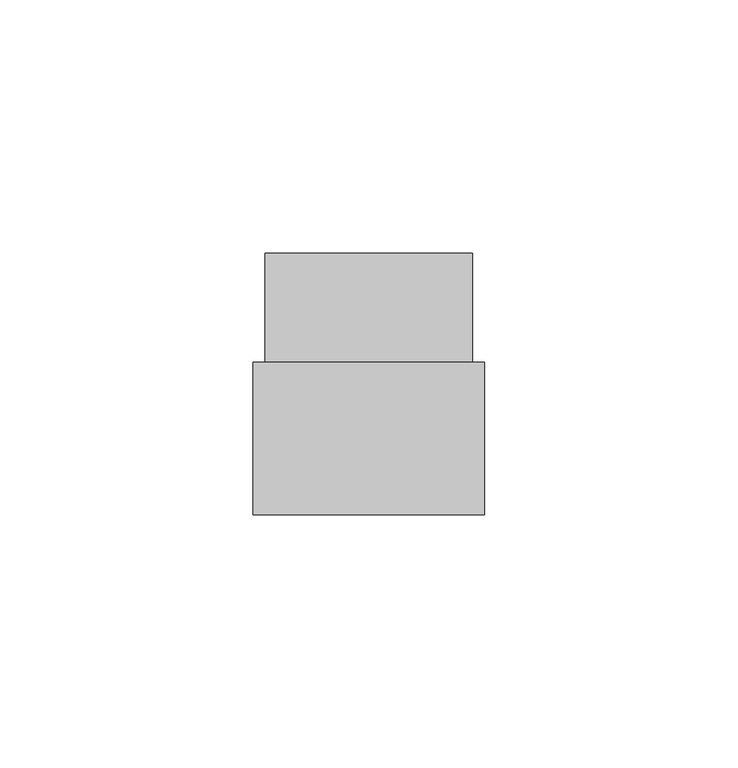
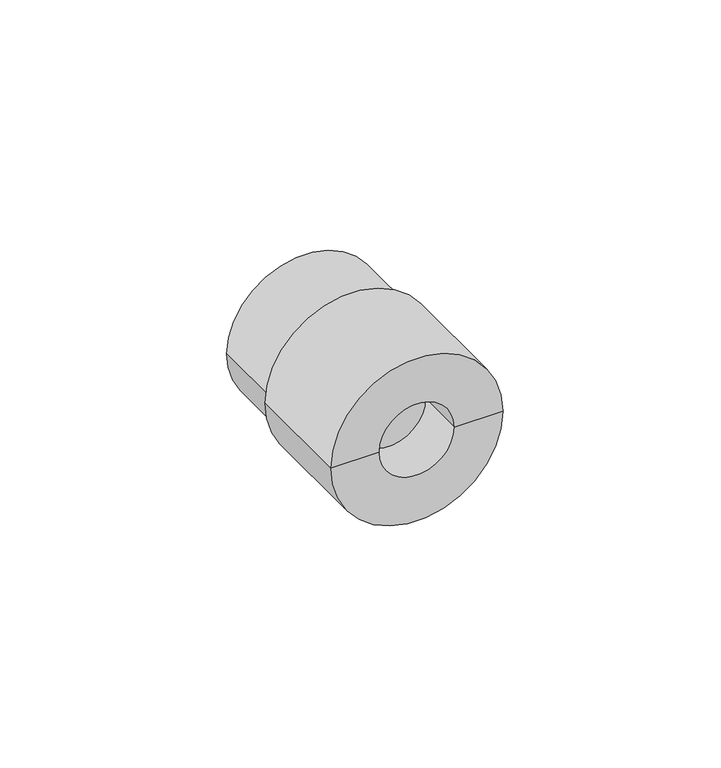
"""IFC4 building model written with IfcOpenShell, lengths in millimetres: pipe fitting geometry, NIRON RED termofusion roscado enlace rosca hembra : Estándar."""

import ifcopenshell
import ifcopenshell.guid

model = None  # the IFC model being written
_history = None  # IfcOwnerHistory: only IFC2X3 demands one
_inside = {}  # id of a spatial element -> (the spatial element, [elements in it])
_under = {}  # id of a project, library or spatial element -> (it, [spatial elements below it])
_declared = {}  # id of a project -> (the project, [libraries it declares])
_typed = {}  # id of a type object -> (the type object, [elements of that type])
_made_of = {}  # id of a material, layer set ... -> (it, [elements and type objects made of it])


def new_model(schema):
    """Start an empty IFC model of exactly this schema.

    Asked for "IFC4X3", IfcOpenShell would pick the latest addendum, in which some entities
    have other attributes; the version numbers below select the first issue.
    IFC2X3 requires an IfcOwnerHistory on every rooted entity: one is made here for all.
    """
    global model, _history
    if schema == "IFC4X3":
        model = ifcopenshell.file(schema_version=(4, 3, 0, 0))
    else:
        model = ifcopenshell.file(schema=schema)
    _inside.clear()
    _under.clear()
    _declared.clear()
    _typed.clear()
    _made_of.clear()
    _history = None
    if model.schema == "IFC2X3":
        org = make("IfcOrganization", Name="unknown")
        user = make(
            "IfcPersonAndOrganization",
            ThePerson=make("IfcPerson", FamilyName="unknown"),
            TheOrganization=org,
        )
        app = make(
            "IfcApplication",
            ApplicationDeveloper=org,
            Version="unknown",
            ApplicationFullName="unknown",
            ApplicationIdentifier="unknown",
        )
        _history = make(
            "IfcOwnerHistory",
            OwningUser=user,
            OwningApplication=app,
            ChangeAction="ADDED",
            CreationDate=0,
        )
    return model


def make(cls, **values):
    """One entity of the class cls with the attributes given. An attribute that is None is left unset."""
    return model.create_entity(
        cls, **{name: value for name, value in values.items() if value is not None}
    )


def rooted(cls, **values):
    """An entity with a GlobalId (a new one), such as an element, a storey or a relation."""
    return make(cls, GlobalId=ifcopenshell.guid.new(), OwnerHistory=_history, **values)


def si_unit(unit_type, name, prefix=None):
    """IfcSIUnit, for example si_unit("LENGTHUNIT", "METRE", prefix="MILLI")."""
    return make("IfcSIUnit", UnitType=unit_type, Prefix=prefix, Name=name)


def assignment(units):
    """IfcUnitAssignment: the units of a project."""
    return None if units is None else make("IfcUnitAssignment", Units=units)


def point(xyz):
    """IfcCartesianPoint."""
    return None if xyz is None else make("IfcCartesianPoint", Coordinates=xyz)


def direction(xyz):
    """IfcDirection."""
    return None if xyz is None else make("IfcDirection", DirectionRatios=xyz)


def frame(location, z_axis=None, x_axis=None):
    """IfcAxis2Placement3D, a coordinate frame: its origin and axes. An axis left out is left unset."""
    return make(
        "IfcAxis2Placement3D",
        Location=point(location),
        Axis=direction(z_axis),
        RefDirection=direction(x_axis),
    )


def origin():
    """The frame at (0, 0, 0) with its axes left unset."""
    return frame((0.0, 0.0, 0.0))


def place(relative_to, where):
    """IfcLocalPlacement: puts the frame where relative to a parent placement (None: the world)."""
    return make(
        "IfcLocalPlacement", PlacementRelTo=relative_to, RelativePlacement=where
    )


def context(
    kind, dimensions, precision=None, world=None, true_north=None, identifier=None
):
    """IfcGeometricRepresentationContext, for example the 3D "Model" context."""
    return make(
        "IfcGeometricRepresentationContext",
        ContextIdentifier=identifier,
        ContextType=kind,
        CoordinateSpaceDimension=dimensions,
        Precision=precision,
        WorldCoordinateSystem=world,
        TrueNorth=true_north,
    )


def project(units=None, contexts=None):
    """IfcProject with its units and contexts."""
    return rooted(
        "IfcProject",
        Name="project",
        RepresentationContexts=contexts,
        UnitsInContext=assignment(units),
    )


def spatial(cls, under=None, at=None, **own):
    """A site, building, storey or space (cls), placed at a placement, below another one or the project."""
    s = rooted(cls, ObjectPlacement=at, **own)
    if under is not None:
        _under.setdefault(under.id(), (under, []))[1].append(s)
    return s


def polyline(points):
    """IfcPolyline through the points."""
    return make("IfcPolyline", Points=[point(p) for p in points])


def circle_curve(where, radius):
    """IfcCircle in the frame where."""
    return make("IfcCircle", Position=where, Radius=radius)


def shape(context_of_items, identifier, shape_type, items):
    """IfcShapeRepresentation: the items that make up one representation, for example the "Body"."""
    return make(
        "IfcShapeRepresentation",
        ContextOfItems=context_of_items,
        RepresentationIdentifier=identifier,
        RepresentationType=shape_type,
        Items=items,
    )


def source(mapping_origin, context_of_items, identifier, shape_type, items):
    """IfcRepresentationMap: a shape defined once, which mapped items show again and again."""
    return make(
        "IfcRepresentationMap",
        MappingOrigin=mapping_origin,
        MappedRepresentation=shape(context_of_items, identifier, shape_type, items),
    )


def transform(
    local_origin,
    x_axis=None,
    y_axis=None,
    z_axis=None,
    scale=None,
    scale2=None,
    scale3=None,
    uniform=True,
):
    """IfcCartesianTransformationOperator3D, or its non-uniform kind. x_axis, y_axis, z_axis: its Axis1, 2, 3."""
    if uniform:
        return make(
            "IfcCartesianTransformationOperator3D",
            Axis1=direction(x_axis),
            Axis2=direction(y_axis),
            LocalOrigin=point(local_origin),
            Scale=scale,
            Axis3=direction(z_axis),
        )
    return make(
        "IfcCartesianTransformationOperator3DnonUniform",
        Axis1=direction(x_axis),
        Axis2=direction(y_axis),
        LocalOrigin=point(local_origin),
        Scale=scale,
        Axis3=direction(z_axis),
        Scale2=scale2,
        Scale3=scale3,
    )


def mapped(mapping_source, mapping_target):
    """IfcMappedItem: shows the shape of a source again, moved by a transform."""
    return make(
        "IfcMappedItem", MappingSource=mapping_source, MappingTarget=mapping_target
    )


def made_of(thing, what):
    """Note that an element or type object is made of a material, layer set ...; save() writes the relation."""
    if what is not None:
        _made_of.setdefault(what.id(), (what, []))[1].append(thing)
    return thing


def element(
    cls,
    number,
    at=None,
    inside=None,
    cuts=None,
    type_object=None,
    material=None,
    context=None,
    identifier="Body",
    shape_type=None,
    held_by="IfcProductDefinitionShape",
    body=None,
    shapes=None,
    **own,
):
    """One element of the class cls, such as IfcWall. Its Tag is "e" and its number.

    at: its placement. inside: the storey or other place that contains it. cuts: it is an
    opening in that element (IfcRelVoidsElement). A single representation is given by context,
    identifier, shape_type and body (its items); several are given by shapes. held_by: the class
    of the entity that holds the representations. save() writes the other relations.
    """
    e = rooted(cls, Tag="e%d" % number, ObjectPlacement=at, **own)
    if body is not None:
        shapes = [shape(context, identifier, shape_type, body)]
    if shapes is not None:
        e.Representation = make(held_by, Representations=shapes)
    if inside is not None:
        _inside.setdefault(inside.id(), (inside, []))[1].append(e)
    if cuts is not None:
        rooted(
            "IfcRelVoidsElement", RelatingBuildingElement=cuts, RelatedOpeningElement=e
        )
    if type_object is not None:
        _typed.setdefault(type_object.id(), (type_object, []))[1].append(e)
    return made_of(e, material)


def aggregate(whole, parts):
    """IfcRelAggregates: a whole, such as a stair, and the parts it consists of."""
    return rooted("IfcRelAggregates", RelatingObject=whole, RelatedObjects=parts)


def save(model, path):
    """Write the relations noted so far, then the file.

    IfcRelAggregates (storeys below a building ...), IfcRelContainedInSpatialStructure (elements
    in a storey), IfcRelDefinesByType, IfcRelAssociatesMaterial and IfcRelDeclares: one each for
    every whole, place, type object, material and project.
    """
    for whole, parts in _under.values():
        aggregate(whole, parts)
    for where, things in _inside.values():
        rooted(
            "IfcRelContainedInSpatialStructure",
            RelatedElements=things,
            RelatingStructure=where,
        )
    for kind, things in _typed.values():
        rooted("IfcRelDefinesByType", RelatedObjects=things, RelatingType=kind)
    for what, things in _made_of.values():
        rooted("IfcRelAssociatesMaterial", RelatedObjects=things, RelatingMaterial=what)
    for by, libraries in _declared.values():
        rooted("IfcRelDeclares", RelatingContext=by, RelatedDefinitions=libraries)
    model.write(path)


def plane_surface(at):
    """IfcPlane: the flat surface through the origin of the frame at, square to its z axis."""
    return make("IfcPlane", Position=at)


def cylinder_surface(at, radius):
    """IfcCylindricalSurface: all points at the distance radius from the z axis of the frame at."""
    return make("IfcCylindricalSurface", Position=at, Radius=radius)


def revolved_surface(curve, axis_point, axis_direction):
    """IfcSurfaceOfRevolution: the curve turned about the line through axis_point along axis_direction."""
    return make(
        "IfcSurfaceOfRevolution",
        SweptCurve=make("IfcArbitraryOpenProfileDef", ProfileType="CURVE", Curve=curve),
        AxisPosition=make("IfcAxis1Placement", Location=point(axis_point), Axis=direction(axis_direction)),
    )


def advanced_brep(points, edges, surfaces, faces):
    """IfcAdvancedBrep: a solid bounded by faces that lie on surfaces and meet in shared edges.

    An edge is (start, end): straight between two places in points (the first is 0);
    or (start, end, curve); or (start, end, curve, False) where it runs against its curve.
    A face is (place in surfaces, loops), or (place, loops, False) where it looks against
    its surface's normal. A loop lists edges by number (the first is 1), with a minus sign
    where the edge is run from its end to its start. The first loop is the outer one.
    """
    corners = [point(p) for p in points]
    vertices = [make("IfcVertexPoint", VertexGeometry=c) for c in corners]
    made = []
    for start, end, *more in edges:
        made.append(
            make(
                "IfcEdgeCurve",
                EdgeStart=vertices[start],
                EdgeEnd=vertices[end],
                EdgeGeometry=more[0] if more else make("IfcPolyline", Points=[corners[start], corners[end]]),
                SameSense=more[1] if len(more) > 1 else True,
            )
        )
    hull = []
    for where, loops, *sense in faces:
        bounds = []
        for j, loop in enumerate(loops):
            ring = [make("IfcOrientedEdge", EdgeElement=made[abs(k) - 1], Orientation=k > 0) for k in loop]
            bounds.append(
                make(
                    "IfcFaceOuterBound" if j == 0 else "IfcFaceBound",
                    Bound=make("IfcEdgeLoop", EdgeList=ring),
                    Orientation=True,
                )
            )
        hull.append(make("IfcAdvancedFace", Bounds=bounds, FaceSurface=surfaces[where], SameSense=sense[0] if sense else True))
    return make("IfcAdvancedBrep", Outer=make("IfcClosedShell", CfsFaces=hull))


def pipe_fitting_5467b1b9(model_context):
    return source(origin(), model_context, "Body", "AdvancedBrep", [
        advanced_brep(
        [(20.5, 51.5, 0.0), (-20.5, 51.5, 0.0), (0.0, 51.5, 0.0), (22.8, 0.0, 0.0), (-22.8, 0.0, 0.0), (-22.8, 30.0, 0.0), (22.8, 30.0, 0.0), (10.0, 0.0, 0.0), (-10.0, 0.0, 0.0), (20.5, 30.0, 0.0), (-20.5, 30.0, 0.0), (-10.0, 13.2, 0.0), (10.0, 13.2, 0.0)],
        [
            (0, 1, circle_curve(frame((0.0, 51.5, 0.0), z_axis=(0.0, 1.0, 0.0), x_axis=(-1.0, 0.0, 0.0)), 20.5)),
            (1, 2),
            (2, 0),
            (1, 0, circle_curve(frame((0.0, 51.5, 0.0), z_axis=(0.0, 1.0, 0.0), x_axis=(-1.0, 0.0, 0.0)), 20.5)),
            (3, 4, circle_curve(frame((0.0, 0.0, 0.0), z_axis=(0.0, 1.0, 0.0), x_axis=(-1.0, 0.0, 0.0)), 22.8)),
            (4, 5),
            (5, 6, circle_curve(frame((0.0, 30.0, 0.0), z_axis=(0.0, -1.0, 0.0), x_axis=(-1.0, 0.0, 0.0)), 22.8)),
            (6, 3),
            (4, 3, circle_curve(frame((0.0, 0.0, 0.0), z_axis=(0.0, 1.0, 0.0), x_axis=(-1.0, 0.0, 0.0)), 22.8)),
            (6, 5, circle_curve(frame((0.0, 30.0, 0.0), z_axis=(0.0, -1.0, 0.0), x_axis=(-1.0, 0.0, 0.0)), 22.8)),
            (3, 7),
            (7, 8, circle_curve(frame((0.0, 0.0, 0.0), z_axis=(0.0, 1.0, 0.0), x_axis=(1.0, 0.0, 0.0)), 10.0)),
            (8, 4),
            (8, 7, circle_curve(frame((0.0, 0.0, 0.0), z_axis=(0.0, 1.0, 0.0), x_axis=(1.0, 0.0, 0.0)), 10.0)),
            (0, 9),
            (9, 10, circle_curve(frame((0.0, 30.0, 0.0), z_axis=(0.0, 1.0, 0.0), x_axis=(-1.0, 0.0, 0.0)), 20.5)),
            (10, 1),
            (10, 9, circle_curve(frame((0.0, 30.0, 0.0), z_axis=(0.0, 1.0, 0.0), x_axis=(-1.0, 0.0, 0.0)), 20.5)),
            (5, 10),
            (9, 6),
            (11, 12, circle_curve(frame((0.0, 13.2, 0.0), z_axis=(0.0, -1.0, 0.0), x_axis=(1.0, 0.0, 0.0)), 10.0)),
            (12, 11, circle_curve(frame((0.0, 13.2, 0.0), z_axis=(0.0, -1.0, 0.0), x_axis=(1.0, 0.0, 0.0)), 10.0)),
            (11, 8),
            (7, 12),
        ],
        [
            plane_surface(frame((0.0, 51.5, 0.0), z_axis=(0.0, 1.0, 0.0), x_axis=(-1.0, 0.0, 0.0))),
            cylinder_surface(frame((0.0, 61.5, 0.0), z_axis=(0.0, -1.0, 0.0), x_axis=(-1.0, 0.0, 0.0)), 22.8),
            plane_surface(frame((0.0, 0.0, 0.0), z_axis=(0.0, -1.0, 0.0), x_axis=(-1.0, 0.0, 0.0))),
            cylinder_surface(frame((0.0, 61.5, 0.0), z_axis=(0.0, -1.0, 0.0), x_axis=(-1.0, 0.0, 0.0)), 20.5),
            plane_surface(frame((0.0, 30.0, 0.0), z_axis=(0.0, 1.0, 0.0), x_axis=(-1.0, 0.0, 0.0))),
            plane_surface(frame((10.0, 13.2, 0.0), z_axis=(0.0, -1.0, 0.0), x_axis=(0.0, 0.0, -1.0))),
            revolved_surface(polyline([(10.0, 0.0, 0.0), (10.0, 13.2, 0.0)]), (0.0, 13.2, 0.0), (0.0, -1.0, 0.0)),
        ],
        [
            (0, [[1, 2, 3]]),
            (0, [[-2, 4, -3]]),
            (1, [[5, 6, 7, 8]]),
            (1, [[-6, 9, -8, 10]]),
            (2, [[-5, 11, 12, 13]]),
            (2, [[-9, -13, 14, -11]]),
            (3, [[-1, 15, 16, 17]]),
            (3, [[-4, -17, 18, -15]]),
            (4, [[-7, 19, -16, 20]]),
            (4, [[-10, -20, -18, -19]]),
            (5, [[21, 22]]),
            (6, [[-21, 23, -12, 24]]),
            (6, [[-22, -24, -14, -23]]),
        ],
    ),
    ])


if __name__ == "__main__":
    model = new_model("IFC4")
    model_context = context("Model", 3, world=origin())
    ifc_project = project(units=[si_unit("LENGTHUNIT", "METRE", prefix="MILLI")], contexts=[model_context])
    site = spatial("IfcSite", under=ifc_project)
    building = spatial("IfcBuilding", under=site)
    placement = place(None, origin())
    pipe_fitting_shape = pipe_fitting_5467b1b9(model_context)
    element("IfcPipeFitting", 1, ObjectType="NIRON RED termofusion roscado enlace rosca hembra : Estándar", at=placement, inside=building, context=model_context, shape_type="MappedRepresentation", body=[
        mapped(pipe_fitting_shape, transform((0.0, 0.0, 0.0), x_axis=(1.0, 0.0, 0.0), y_axis=(0.0, 1.0, 0.0), z_axis=(0.0, 0.0, 1.0))),
    ])
    save(model, "model.ifc")
